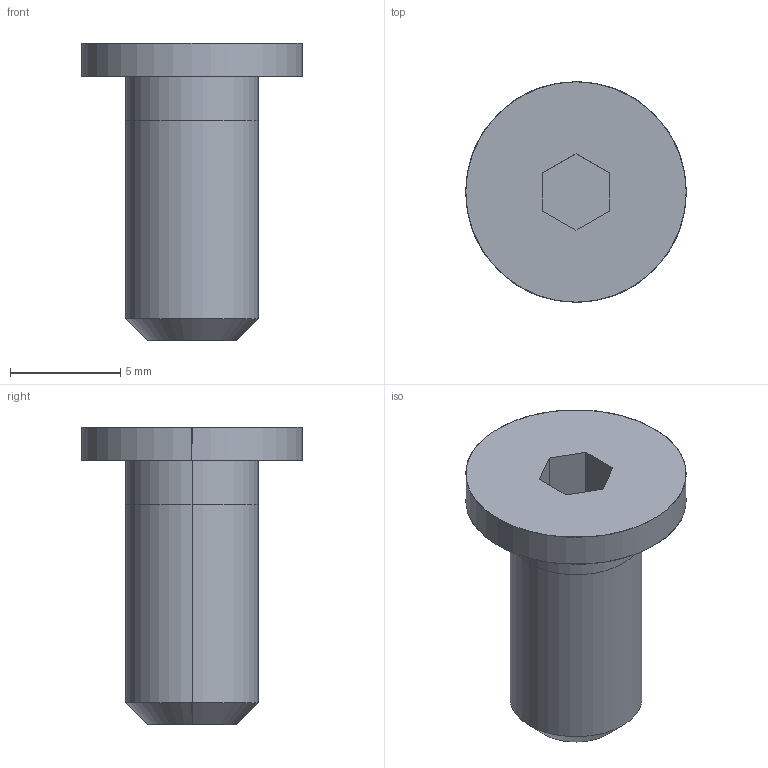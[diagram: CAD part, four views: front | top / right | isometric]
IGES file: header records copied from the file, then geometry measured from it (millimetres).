
Global section: file name: E:\UnigraphicsGraphicData\MISUMI_PRESS-PARTS\IGES\3d_cbss6-12_03488_r00.igs; native system: NX V5.0; preprocessor: UGS NX IGES V5.0; author: MISUMI; date: 20110105.160202; units: millimetre
Bounding box: 10 x 10 x 13.5 mm (x, y, z)
Surface area: 460.1 mm2 (no closed solid volume)
Topology: 0 solids, 0 shells, 18 faces, 100 edges, 100 vertices
Faces by surface type: bspline 18
